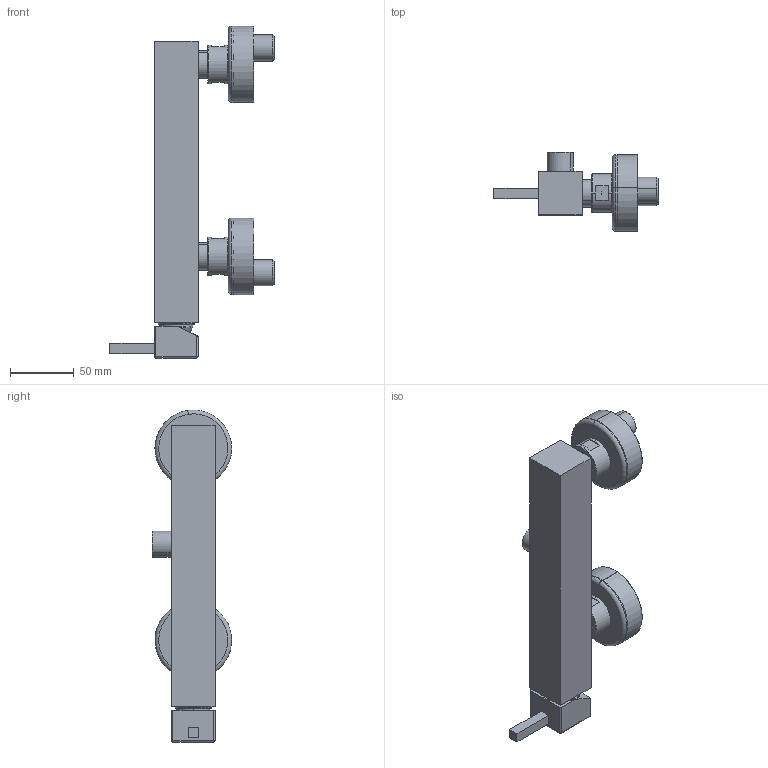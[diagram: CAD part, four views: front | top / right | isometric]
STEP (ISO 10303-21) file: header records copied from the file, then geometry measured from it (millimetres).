
FILE_DESCRIPTION (( 'STEP AP203' ), '1' );
FILE_NAME ('H4U23.STEP', '2016-11-10T10:00:35', ( '' ), ( '' ), 'SwSTEP 2.0', 'SolidWorks 2014', '' );
FILE_SCHEMA (( 'CONFIG_CONTROL_DESIGN' ));
Length unit declared in the file: millimetre
Products named in the file (17): GAL300279; EU004_00; ECCENTRICI; CONFROS012; CARTNUB001; EU0110_1; EU0120_0; GRANO M5x6; EU0104_1; EU0287_0; H4U23; EU0665_0; RONDG2417; EU0119_2; GAL106265; TAPPHITO01
Assembly tree (20 placements, depth 3):
  H4U23
    EU0287_0
    CARTNUB001
    GAL106265  x2
    EU0665_0  x2
    GAL300279
    EU0119_2
    EU0120_0
    CONFROS012  x2
      CONFROS012
      ECCENTRICI
      RONDG2417
    EU004_00
      GRANO M5x6  x2
      EU0104_1
      EU0110_1
      TAPPHITO01
Bounding box: 128.5 x 61.99 x 259.49 mm (x, y, z)
Volume: 314744.8 mm3; surface area: 112575.2 mm2
Topology: 23 solids, 23 shells, 688 faces, 1566 edges, 954 vertices
Faces by surface type: cylinder 244, plane 239, cone 147, torus 44, bspline 10, sphere 4
Entity records: 19038 total; most frequent: CARTESIAN_POINT 4127, DIRECTION 2929, ORIENTED_EDGE 2556, EDGE_CURVE 1278, AXIS2_PLACEMENT_3D 1171, VERTEX_POINT 792, EDGE_LOOP 640, CIRCLE 589
